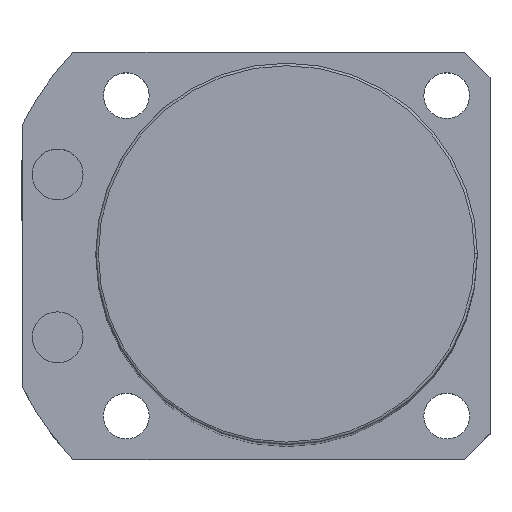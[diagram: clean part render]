
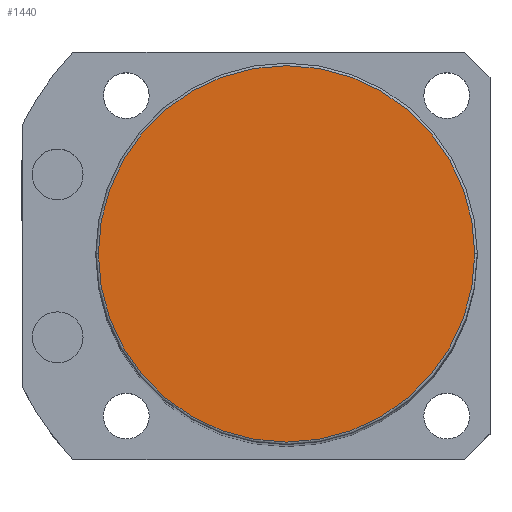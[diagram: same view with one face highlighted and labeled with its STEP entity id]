
A CAD part, top view. The second image highlights one B-rep face of the part: STEP entity #1440.
In plain terms, the highlighted planar face has unit normal (0, 0, 1).
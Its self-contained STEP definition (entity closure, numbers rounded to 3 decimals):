
#83 = DIRECTION ( 'NONE',  ( 1., 0., 0. ) ) ;
#169 = FACE_OUTER_BOUND ( 'NONE', #1901, .T. ) ;
#351 = CIRCLE ( 'NONE', #2417, 37. ) ;
#472 = CARTESIAN_POINT ( 'NONE',  ( 0., 0., 240.5 ) ) ;
#492 = VERTEX_POINT ( 'NONE', #1303 ) ;
#521 = CARTESIAN_POINT ( 'NONE',  ( 37., 0., 240.5 ) ) ;
#633 = DIRECTION ( 'NONE',  ( 0., 0., 1. ) ) ;
#638 = DIRECTION ( 'NONE',  ( 1., 0., 0. ) ) ;
#659 = DIRECTION ( 'NONE',  ( 1., 0., 0. ) ) ;
#868 = PLANE ( 'NONE',  #2414 ) ;
#1226 = CARTESIAN_POINT ( 'NONE',  ( 0., 0., 240.5 ) ) ;
#1303 = CARTESIAN_POINT ( 'NONE',  ( -37., 0., 240.5 ) ) ;
#1440 = ADVANCED_FACE ( 'NONE', ( #169 ), #868, .T. ) ;
#1457 = EDGE_CURVE ( 'NONE', #492, #1726, #2270, .T. ) ;
#1562 = CARTESIAN_POINT ( 'NONE',  ( 0., 0., 240.5 ) ) ;
#1596 = DIRECTION ( 'NONE',  ( 0., 0., 1. ) ) ;
#1706 = ORIENTED_EDGE ( 'NONE', *, *, #1457, .T. ) ;
#1726 = VERTEX_POINT ( 'NONE', #521 ) ;
#1901 = EDGE_LOOP ( 'NONE', ( #2198, #1706 ) ) ;
#1907 = AXIS2_PLACEMENT_3D ( 'NONE', #472, #1596, #83 ) ;
#2198 = ORIENTED_EDGE ( 'NONE', *, *, #2378, .T. ) ;
#2270 = CIRCLE ( 'NONE', #1907, 37. ) ;
#2360 = DIRECTION ( 'NONE',  ( 0., 0., 1. ) ) ;
#2378 = EDGE_CURVE ( 'NONE', #1726, #492, #351, .T. ) ;
#2414 = AXIS2_PLACEMENT_3D ( 'NONE', #1226, #2360, #659 ) ;
#2417 = AXIS2_PLACEMENT_3D ( 'NONE', #1562, #633, #638 ) ;
